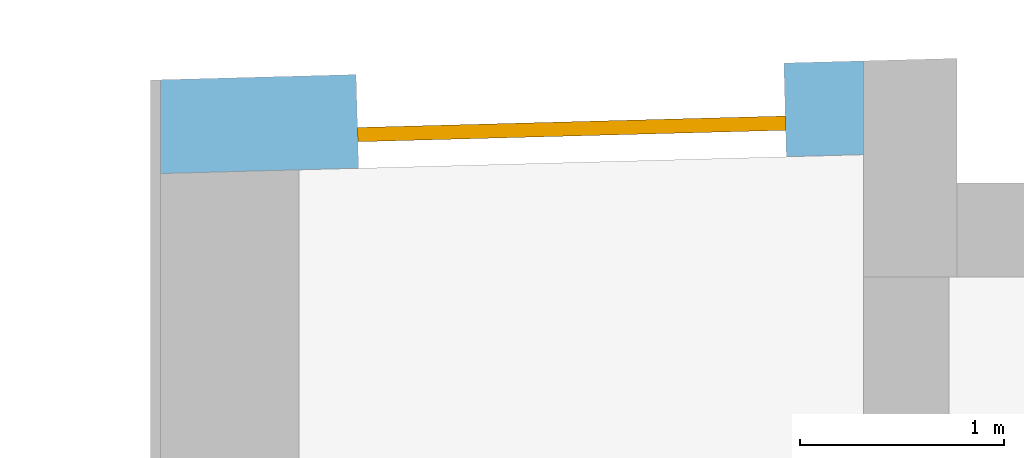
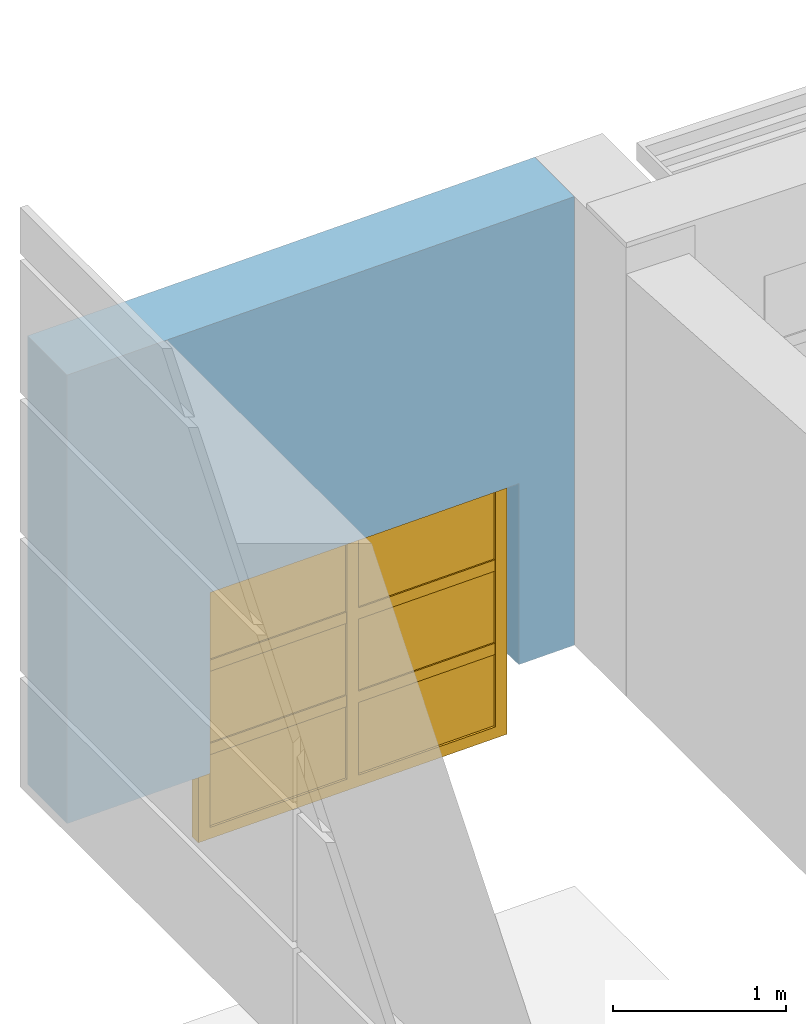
# One storey, part 43 of 46: 1 window, 1 opening, plus 1 element that does not belong to this part.
"""IFC2X3 building model written with IfcOpenShell, lengths in millimetres."""

from ifc_helpers import new_model, entity, si_unit, converted_unit, derived_unit, direction, frame, frame_2d, origin, place, context, subcontext, project, spatial, polyline, rectangle, outline, extrude, face_set, surface_model, source, transform, mapped, material, material_list, layer, layer_set, layer_usage, type_object, type_shapes, element, fill, save


model = new_model("IFC2X3")

# Units and contexts
model_context = context("Model", 3, precision=0.01, world=origin(), true_north=direction((6.12303176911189e-17, 1.0)))
body_context = subcontext(model_context, "Body", "Model", "MODEL_VIEW")
ifc_project = project(units=[si_unit("LENGTHUNIT", "METRE", prefix="MILLI"), si_unit("AREAUNIT", "SQUARE_METRE"), si_unit("VOLUMEUNIT", "CUBIC_METRE"), converted_unit("PLANEANGLEUNIT", "DEGREE", entity("IfcRatioMeasure", 0.0174532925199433), si_unit("PLANEANGLEUNIT", "RADIAN"), dimensions=[0, 0, 0, 0, 0, 0, 0]), si_unit("MASSUNIT", "GRAM", prefix="KILO"), derived_unit("MASSDENSITYUNIT", [(si_unit("MASSUNIT", "GRAM", prefix="KILO"), 1), (si_unit("LENGTHUNIT", "METRE"), -3)]), si_unit("TIMEUNIT", "SECOND"), si_unit("FREQUENCYUNIT", "HERTZ"), si_unit("THERMODYNAMICTEMPERATUREUNIT", "DEGREE_CELSIUS"), derived_unit("THERMALTRANSMITTANCEUNIT", [(si_unit("MASSUNIT", "GRAM", prefix="KILO"), 1), (si_unit("THERMODYNAMICTEMPERATUREUNIT", "KELVIN"), -1), (si_unit("TIMEUNIT", "SECOND"), -3)]), derived_unit("VOLUMETRICFLOWRATEUNIT", [(si_unit("LENGTHUNIT", "METRE"), 3), (si_unit("TIMEUNIT", "SECOND"), -1)]), si_unit("ELECTRICCURRENTUNIT", "AMPERE"), si_unit("ELECTRICVOLTAGEUNIT", "VOLT"), si_unit("POWERUNIT", "WATT"), si_unit("FORCEUNIT", "NEWTON", prefix="KILO"), si_unit("ILLUMINANCEUNIT", "LUX"), si_unit("LUMINOUSFLUXUNIT", "LUMEN"), si_unit("LUMINOUSINTENSITYUNIT", "CANDELA"), derived_unit("USERDEFINED", [(si_unit("MASSUNIT", "GRAM", prefix="KILO"), -1), (si_unit("LENGTHUNIT", "METRE"), -2), (si_unit("TIMEUNIT", "SECOND"), 3), (si_unit("LUMINOUSFLUXUNIT", "LUMEN"), 1)]), derived_unit("LINEARVELOCITYUNIT", [(si_unit("LENGTHUNIT", "METRE"), 1), (si_unit("TIMEUNIT", "SECOND"), -1)]), si_unit("PRESSUREUNIT", "PASCAL"), derived_unit("USERDEFINED", [(si_unit("LENGTHUNIT", "METRE"), -2), (si_unit("MASSUNIT", "GRAM", prefix="KILO"), 1), (si_unit("TIMEUNIT", "SECOND"), -2)])], contexts=[model_context])

# Site, building, storey
site_placement = place(None, frame((-151.875543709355, 2715.0, 0.0)))
site = spatial("IfcSite", under=ifc_project, at=site_placement, Name="Surface", CompositionType="ELEMENT")
building_placement = place(site_placement, origin())
building = spatial("IfcBuilding", under=site, at=building_placement, CompositionType="ELEMENT")
storey_placement = place(building_placement, frame((0.0, 0.0, 10060.0)))
storey = spatial("IfcBuildingStorey", under=building, at=storey_placement, Name="4 korrus", CompositionType="ELEMENT", Elevation=10060.0000000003)

# Wall, opening, window
ifc_material_1 = material(Name="Brick, Common")
ifc_layer_1 = layer(ifc_material_1, 440.0)
ifc_material_2 = material(Name="__Kips GN13_tava")
ifc_layer_2 = layer(ifc_material_2, 20.0)
ifc_layer_set = layer_set([ifc_layer_1, ifc_layer_2], Name="Basic Wall:VS-1")
ifc_layer_usage = layer_usage(ifc_layer_set, "AXIS2", "NEGATIVE", 230.0)
wall_type = type_object("IfcWallType", Name="Basic Wall:VS-1", PredefinedType="STANDARD", material=ifc_layer_set)
wall_placement = place(storey_placement, frame((1084.82025900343, 12886.4674488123, 0.0), z_axis=(0.0, 0.0, 1.0), x_axis=(0.999638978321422, 0.0268684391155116, 0.0)))
wall = element("IfcWallStandardCase", 1, at=wall_placement, inside=storey, type_object=wall_type, material=ifc_layer_usage, Name="SEIN - 004", ObjectType="Basic Wall:VS-1", context=body_context, shape_type="SweptSolid", body=[
    extrude(outline(polyline([(0.0, -230.0), (679.245222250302, -230.0), (3450.32003918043, -230.0), (3462.68398482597, 230.0), (12.363945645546, 230.0), (0.0, -230.0)])), origin(), (0.0, 0.0, 1.0), 3173.94120006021),
])
opening_placement = place(wall_placement, frame((-1430.66788143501, -12852.6677276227, 0.0), z_axis=(0.0, 0.0, 1.0), x_axis=(0.999638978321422, -0.0268684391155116, 0.0)))
opening = element("IfcOpeningElement", 2, at=opening_placement, cuts=wall, Name="SEIN - 004", ObjectType="Opening", context=body_context, shape_type="SweptSolid", body=[
    extrude(rectangle(XDim=1850.0, YDim=2100.0, at=frame_2d((0.0, 1.13686837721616e-13), x_axis=(1.0, 0.0))), frame((3124.83901111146, 12245.1480382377, 356.01247787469), z_axis=(-0.0268684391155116, 0.999638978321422, 0.0), x_axis=(0.0, 0.0, -1.0)), (0.0, 0.0, 1.0), 1393.8),
])
ifc_material_3 = material(Name="Paint - Titanium White")
ifc_material_4 = material(Name="Paint - Dark Gray")
ifc_material_5 = material(Name="Glass - Clear Fast")
ifc_material_list_1 = material_list([ifc_material_3, ifc_material_4, ifc_material_5])
ifc_material_list_2 = material_list([ifc_material_3, ifc_material_4, ifc_material_5])
window_style = type_object("IfcWindowStyle", Name="A-02", ConstructionType="NOTDEFINED", OperationType="DOUBLE_PANEL_VERTICAL", ParameterTakesPrecedence=False, Sizeable=False, material=ifc_material_list_2)
shared_shape = source(origin(), body_context, "Body", "SurfaceModel", [
    surface_model("IfcFaceBasedSurfaceModel", [(80.0, 727.9, 1770.0), (80.0, 772.9, 1770.0), (0.0, 772.9, 1770.0), (0.0, 727.9, 1770.0), (80.0, 727.9, 80.0), (80.0, 772.9, 80.0), (80.0, 772.9, 1770.0), (80.0, 727.9, 1770.0), (80.0, 772.9, 1770.0), (80.0, 772.9, 80.0), (0.0, 772.9, 80.0), (0.0, 772.9, 1770.0), (0.0, 727.9, 1770.0), (0.0, 772.9, 1770.0), (0.0, 772.9, 80.0), (0.0, 727.9, 80.0), (80.0, 727.9, 1770.0), (0.0, 727.9, 1770.0), (0.0, 727.9, 80.0), (80.0, 727.9, 80.0), (0.0, 727.9, 80.0), (0.0, 772.9, 80.0), (80.0, 772.9, 80.0), (80.0, 727.9, 80.0), (2020.0, 727.9, 80.0), (2020.0, 772.9, 80.0), (2100.0, 772.9, 80.0), (2100.0, 727.9, 80.0), (2020.0, 727.9, 1770.0), (2020.0, 772.9, 1770.0), (2020.0, 772.9, 80.0), (2020.0, 727.9, 80.0), (2020.0, 772.9, 80.0), (2020.0, 772.9, 1770.0), (2100.0, 772.9, 1770.0), (2100.0, 772.9, 80.0), (2100.0, 727.9, 80.0), (2100.0, 772.9, 80.0), (2100.0, 772.9, 1770.0), (2100.0, 727.9, 1770.0), (2020.0, 727.9, 80.0), (2100.0, 727.9, 80.0), (2100.0, 727.9, 1770.0), (2020.0, 727.9, 1770.0), (2100.0, 727.9, 1770.0), (2100.0, 772.9, 1770.0), (2020.0, 772.9, 1770.0), (2020.0, 727.9, 1770.0), (1010.0, 727.9, 80.0), (1010.0, 772.9, 80.0), (1090.0, 772.9, 80.0), (1090.0, 727.9, 80.0), (1010.0, 727.9, 1770.0), (1010.0, 772.9, 1770.0), (1010.0, 772.9, 80.0), (1010.0, 727.9, 80.0), (1010.0, 772.9, 80.0), (1010.0, 772.9, 1770.0), (1090.0, 772.9, 1770.0), (1090.0, 772.9, 80.0), (1090.0, 727.9, 80.0), (1090.0, 772.9, 80.0), (1090.0, 772.9, 1770.0), (1090.0, 727.9, 1770.0), (1010.0, 727.9, 80.0), (1090.0, 727.9, 80.0), (1090.0, 727.9, 1770.0), (1010.0, 727.9, 1770.0), (1090.0, 727.9, 1770.0), (1090.0, 772.9, 1770.0), (1010.0, 772.9, 1770.0), (1010.0, 727.9, 1770.0), (80.0, 727.9, 80.0), (80.0, 772.9, 80.0), (0.0, 772.9, 80.0), (0.0, 727.9, 80.0), (1010.0, 727.9, 80.0), (1010.0, 772.9, 80.0), (80.0, 772.9, 80.0), (80.0, 727.9, 80.0), (80.0, 772.9, 80.0), (1010.0, 772.9, 80.0), (1090.0, 772.9, 80.0), (2020.0, 772.9, 80.0), (2100.0, 772.9, 80.0), (2100.0, 772.9, 0.0), (0.0, 772.9, 0.0), (0.0, 772.9, 80.0), (0.0, 727.9, 80.0), (0.0, 772.9, 80.0), (0.0, 772.9, 0.0), (0.0, 727.9, 0.0), (80.0, 727.9, 80.0), (0.0, 727.9, 80.0), (0.0, 727.9, 0.0), (2100.0, 727.9, 0.0), (2100.0, 727.9, 80.0), (2020.0, 727.9, 80.0), (1090.0, 727.9, 80.0), (1010.0, 727.9, 80.0), (1090.0, 727.9, 80.0), (1090.0, 772.9, 80.0), (1010.0, 772.9, 80.0), (1010.0, 727.9, 80.0), (2020.0, 727.9, 80.0), (2020.0, 772.9, 80.0), (1090.0, 772.9, 80.0), (1090.0, 727.9, 80.0), (2100.0, 727.9, 80.0), (2100.0, 772.9, 80.0), (2020.0, 772.9, 80.0), (2020.0, 727.9, 80.0), (2100.0, 727.9, 0.0), (2100.0, 772.9, 0.0), (2100.0, 772.9, 80.0), (2100.0, 727.9, 80.0), (0.0, 727.9, 0.0), (0.0, 772.9, 0.0), (2100.0, 772.9, 0.0), (2100.0, 727.9, 0.0), (1010.0, 727.9, 1770.0), (1010.0, 772.9, 1770.0), (1090.0, 772.9, 1770.0), (1090.0, 727.9, 1770.0), (80.0, 727.9, 1770.0), (80.0, 772.9, 1770.0), (1010.0, 772.9, 1770.0), (1010.0, 727.9, 1770.0), (1010.0, 772.9, 1770.0), (80.0, 772.9, 1770.0), (0.0, 772.9, 1770.0), (0.0, 772.9, 1850.0), (2100.0, 772.9, 1850.0), (2100.0, 772.9, 1770.0), (2020.0, 772.9, 1770.0), (1090.0, 772.9, 1770.0), (1090.0, 727.9, 1770.0), (1090.0, 772.9, 1770.0), (2020.0, 772.9, 1770.0), (2020.0, 727.9, 1770.0), (1010.0, 727.9, 1770.0), (1090.0, 727.9, 1770.0), (2020.0, 727.9, 1770.0), (2100.0, 727.9, 1770.0), (2100.0, 727.9, 1850.0), (0.0, 727.9, 1850.0), (0.0, 727.9, 1770.0), (80.0, 727.9, 1770.0), (0.0, 727.9, 1770.0), (0.0, 772.9, 1770.0), (80.0, 772.9, 1770.0), (80.0, 727.9, 1770.0), (0.0, 727.9, 1850.0), (0.0, 772.9, 1850.0), (0.0, 772.9, 1770.0), (0.0, 727.9, 1770.0), (2100.0, 727.9, 1850.0), (2100.0, 772.9, 1850.0), (0.0, 772.9, 1850.0), (0.0, 727.9, 1850.0), (2100.0, 727.9, 1770.0), (2100.0, 772.9, 1770.0), (2100.0, 772.9, 1850.0), (2100.0, 727.9, 1850.0), (2020.0, 727.9, 1770.0), (2020.0, 772.9, 1770.0), (2100.0, 772.9, 1770.0), (2100.0, 727.9, 1770.0), (80.0, 752.9, 590.0), (80.0, 762.9, 590.0), (1010.0, 762.9, 590.0), (1010.0, 752.9, 590.0), (80.0, 752.9, 670.0), (80.0, 762.9, 670.0), (80.0, 762.9, 590.0), (80.0, 752.9, 590.0), (80.0, 762.9, 590.0), (80.0, 762.9, 670.0), (1010.0, 762.9, 670.0), (1010.0, 762.9, 590.0), (1010.0, 752.9, 590.0), (1010.0, 762.9, 590.0), (1010.0, 762.9, 670.0), (1010.0, 752.9, 670.0), (80.0, 752.9, 590.0), (1010.0, 752.9, 590.0), (1010.0, 752.9, 670.0), (80.0, 752.9, 670.0), (1010.0, 752.9, 670.0), (1010.0, 762.9, 670.0), (80.0, 762.9, 670.0), (80.0, 752.9, 670.0), (80.0, 752.9, 1180.0), (80.0, 762.9, 1180.0), (1010.0, 762.9, 1180.0), (1010.0, 752.9, 1180.0), (80.0, 752.9, 1260.0), (80.0, 762.9, 1260.0), (80.0, 762.9, 1180.0), (80.0, 752.9, 1180.0), (80.0, 762.9, 1180.0), (80.0, 762.9, 1260.0), (1010.0, 762.9, 1260.0), (1010.0, 762.9, 1180.0), (1010.0, 752.9, 1180.0), (1010.0, 762.9, 1180.0), (1010.0, 762.9, 1260.0), (1010.0, 752.9, 1260.0), (80.0, 752.9, 1180.0), (1010.0, 752.9, 1180.0), (1010.0, 752.9, 1260.0), (80.0, 752.9, 1260.0), (1010.0, 752.9, 1260.0), (1010.0, 762.9, 1260.0), (80.0, 762.9, 1260.0), (80.0, 752.9, 1260.0), (1090.0, 752.9, 590.0), (1090.0, 762.9, 590.0), (2020.0, 762.9, 590.0), (2020.0, 752.9, 590.0), (1090.0, 752.9, 670.0), (1090.0, 762.9, 670.0), (1090.0, 762.9, 590.0), (1090.0, 752.9, 590.0), (1090.0, 762.9, 590.0), (1090.0, 762.9, 670.0), (2020.0, 762.9, 670.0), (2020.0, 762.9, 590.0), (2020.0, 752.9, 590.0), (2020.0, 762.9, 590.0), (2020.0, 762.9, 670.0), (2020.0, 752.9, 670.0), (1090.0, 752.9, 590.0), (2020.0, 752.9, 590.0), (2020.0, 752.9, 670.0), (1090.0, 752.9, 670.0), (2020.0, 752.9, 670.0), (2020.0, 762.9, 670.0), (1090.0, 762.9, 670.0), (1090.0, 752.9, 670.0), (1090.0, 752.9, 1180.0), (1090.0, 762.9, 1180.0), (2020.0, 762.9, 1180.0), (2020.0, 752.9, 1180.0), (1090.0, 752.9, 1260.0), (1090.0, 762.9, 1260.0), (1090.0, 762.9, 1180.0), (1090.0, 752.9, 1180.0), (1090.0, 762.9, 1180.0), (1090.0, 762.9, 1260.0), (2020.0, 762.9, 1260.0), (2020.0, 762.9, 1180.0), (2020.0, 752.9, 1180.0), (2020.0, 762.9, 1180.0), (2020.0, 762.9, 1260.0), (2020.0, 752.9, 1260.0), (1090.0, 752.9, 1180.0), (2020.0, 752.9, 1180.0), (2020.0, 752.9, 1260.0), (1090.0, 752.9, 1260.0), (2020.0, 752.9, 1260.0), (2020.0, 762.9, 1260.0), (1090.0, 762.9, 1260.0), (1090.0, 752.9, 1260.0)], [face_set([[[0, 1, 2, 3]]]), face_set([[[4, 5, 6, 7]]]), face_set([[[8, 9, 10, 11]]]), face_set([[[12, 13, 14, 15]]]), face_set([[[16, 17, 18, 19]]]), face_set([[[20, 21, 22, 23]]]), face_set([[[24, 25, 26, 27]]]), face_set([[[28, 29, 30, 31]]]), face_set([[[32, 33, 34, 35]]]), face_set([[[36, 37, 38, 39]]]), face_set([[[40, 41, 42, 43]]]), face_set([[[44, 45, 46, 47]]]), face_set([[[48, 49, 50, 51]]]), face_set([[[52, 53, 54, 55]]]), face_set([[[56, 57, 58, 59]]]), face_set([[[60, 61, 62, 63]]]), face_set([[[64, 65, 66, 67]]]), face_set([[[68, 69, 70, 71]]]), face_set([[[72, 73, 74, 75]]]), face_set([[[76, 77, 78, 79]]]), face_set([[[80, 81, 82, 83, 84, 85, 86, 87]]]), face_set([[[88, 89, 90, 91]]]), face_set([[[92, 93, 94, 95, 96, 97, 98, 99]]]), face_set([[[100, 101, 102, 103]]]), face_set([[[104, 105, 106, 107]]]), face_set([[[108, 109, 110, 111]]]), face_set([[[112, 113, 114, 115]]]), face_set([[[116, 117, 118, 119]]]), face_set([[[120, 121, 122, 123]]]), face_set([[[124, 125, 126, 127]]]), face_set([[[128, 129, 130, 131, 132, 133, 134, 135]]]), face_set([[[136, 137, 138, 139]]]), face_set([[[140, 141, 142, 143, 144, 145, 146, 147]]]), face_set([[[148, 149, 150, 151]]]), face_set([[[152, 153, 154, 155]]]), face_set([[[156, 157, 158, 159]]]), face_set([[[160, 161, 162, 163]]]), face_set([[[164, 165, 166, 167]]]), face_set([[[168, 169, 170, 171]]]), face_set([[[172, 173, 174, 175]]]), face_set([[[176, 177, 178, 179]]]), face_set([[[180, 181, 182, 183]]]), face_set([[[184, 185, 186, 187]]]), face_set([[[188, 189, 190, 191]]]), face_set([[[192, 193, 194, 195]]]), face_set([[[196, 197, 198, 199]]]), face_set([[[200, 201, 202, 203]]]), face_set([[[204, 205, 206, 207]]]), face_set([[[208, 209, 210, 211]]]), face_set([[[212, 213, 214, 215]]]), face_set([[[216, 217, 218, 219]]]), face_set([[[220, 221, 222, 223]]]), face_set([[[224, 225, 226, 227]]]), face_set([[[228, 229, 230, 231]]]), face_set([[[232, 233, 234, 235]]]), face_set([[[236, 237, 238, 239]]]), face_set([[[240, 241, 242, 243]]]), face_set([[[244, 245, 246, 247]]]), face_set([[[248, 249, 250, 251]]]), face_set([[[252, 253, 254, 255]]]), face_set([[[256, 257, 258, 259]]]), face_set([[[260, 261, 262, 263]]])]),
    surface_model("IfcFaceBasedSurfaceModel", [(80.0, 772.9, 1770.0), (80.0, 797.9, 1770.0), (0.0, 797.9, 1770.0), (0.0, 772.9, 1770.0), (80.0, 772.9, 80.0), (80.0, 797.9, 80.0), (80.0, 797.9, 1770.0), (80.0, 772.9, 1770.0), (80.0, 797.9, 1770.0), (80.0, 797.9, 80.0), (0.0, 797.9, 80.0), (0.0, 797.9, 1770.0), (0.0, 772.9, 1770.0), (0.0, 797.9, 1770.0), (0.0, 797.9, 80.0), (0.0, 772.9, 80.0), (80.0, 772.9, 1770.0), (0.0, 772.9, 1770.0), (0.0, 772.9, 80.0), (80.0, 772.9, 80.0), (0.0, 772.9, 80.0), (0.0, 797.9, 80.0), (80.0, 797.9, 80.0), (80.0, 772.9, 80.0), (2020.0, 772.9, 80.0), (2020.0, 797.9, 80.0), (2100.0, 797.9, 80.0), (2100.0, 772.9, 80.0), (2020.0, 772.9, 1770.0), (2020.0, 797.9, 1770.0), (2020.0, 797.9, 80.0), (2020.0, 772.9, 80.0), (2020.0, 797.9, 80.0), (2020.0, 797.9, 1770.0), (2100.0, 797.9, 1770.0), (2100.0, 797.9, 80.0), (2100.0, 772.9, 80.0), (2100.0, 797.9, 80.0), (2100.0, 797.9, 1770.0), (2100.0, 772.9, 1770.0), (2020.0, 772.9, 80.0), (2100.0, 772.9, 80.0), (2100.0, 772.9, 1770.0), (2020.0, 772.9, 1770.0), (2100.0, 772.9, 1770.0), (2100.0, 797.9, 1770.0), (2020.0, 797.9, 1770.0), (2020.0, 772.9, 1770.0), (1010.0, 772.9, 80.0), (1010.0, 797.9, 80.0), (1090.0, 797.9, 80.0), (1090.0, 772.9, 80.0), (1010.0, 772.9, 1770.0), (1010.0, 797.9, 1770.0), (1010.0, 797.9, 80.0), (1010.0, 772.9, 80.0), (1010.0, 797.9, 80.0), (1010.0, 797.9, 1770.0), (1090.0, 797.9, 1770.0), (1090.0, 797.9, 80.0), (1090.0, 772.9, 80.0), (1090.0, 797.9, 80.0), (1090.0, 797.9, 1770.0), (1090.0, 772.9, 1770.0), (1010.0, 772.9, 80.0), (1090.0, 772.9, 80.0), (1090.0, 772.9, 1770.0), (1010.0, 772.9, 1770.0), (1090.0, 772.9, 1770.0), (1090.0, 797.9, 1770.0), (1010.0, 797.9, 1770.0), (1010.0, 772.9, 1770.0), (80.0, 772.9, 80.0), (80.0, 797.9, 80.0), (0.0, 797.9, 80.0), (0.0, 772.9, 80.0), (1010.0, 772.9, 80.0), (1010.0, 797.9, 80.0), (80.0, 797.9, 80.0), (80.0, 772.9, 80.0), (80.0, 797.9, 80.0), (1010.0, 797.9, 80.0), (1090.0, 797.9, 80.0), (2020.0, 797.9, 80.0), (2100.0, 797.9, 80.0), (2100.0, 797.9, 0.0), (0.0, 797.9, 0.0), (0.0, 797.9, 80.0), (0.0, 772.9, 80.0), (0.0, 797.9, 80.0), (0.0, 797.9, 0.0), (0.0, 772.9, 0.0), (80.0, 772.9, 80.0), (0.0, 772.9, 80.0), (0.0, 772.9, 0.0), (2100.0, 772.9, 0.0), (2100.0, 772.9, 80.0), (2020.0, 772.9, 80.0), (1090.0, 772.9, 80.0), (1010.0, 772.9, 80.0), (1090.0, 772.9, 80.0), (1090.0, 797.9, 80.0), (1010.0, 797.9, 80.0), (1010.0, 772.9, 80.0), (2020.0, 772.9, 80.0), (2020.0, 797.9, 80.0), (1090.0, 797.9, 80.0), (1090.0, 772.9, 80.0), (2100.0, 772.9, 80.0), (2100.0, 797.9, 80.0), (2020.0, 797.9, 80.0), (2020.0, 772.9, 80.0), (2100.0, 772.9, 0.0), (2100.0, 797.9, 0.0), (2100.0, 797.9, 80.0), (2100.0, 772.9, 80.0), (0.0, 772.9, 0.0), (0.0, 797.9, 0.0), (2100.0, 797.9, 0.0), (2100.0, 772.9, 0.0), (1010.0, 772.9, 1770.0), (1010.0, 797.9, 1770.0), (1090.0, 797.9, 1770.0), (1090.0, 772.9, 1770.0), (80.0, 772.9, 1770.0), (80.0, 797.9, 1770.0), (1010.0, 797.9, 1770.0), (1010.0, 772.9, 1770.0), (1010.0, 797.9, 1770.0), (80.0, 797.9, 1770.0), (0.0, 797.9, 1770.0), (0.0, 797.9, 1850.0), (2100.0, 797.9, 1850.0), (2100.0, 797.9, 1770.0), (2020.0, 797.9, 1770.0), (1090.0, 797.9, 1770.0), (1090.0, 772.9, 1770.0), (1090.0, 797.9, 1770.0), (2020.0, 797.9, 1770.0), (2020.0, 772.9, 1770.0), (1010.0, 772.9, 1770.0), (1090.0, 772.9, 1770.0), (2020.0, 772.9, 1770.0), (2100.0, 772.9, 1770.0), (2100.0, 772.9, 1850.0), (0.0, 772.9, 1850.0), (0.0, 772.9, 1770.0), (80.0, 772.9, 1770.0), (0.0, 772.9, 1770.0), (0.0, 797.9, 1770.0), (80.0, 797.9, 1770.0), (80.0, 772.9, 1770.0), (0.0, 772.9, 1850.0), (0.0, 797.9, 1850.0), (0.0, 797.9, 1770.0), (0.0, 772.9, 1770.0), (2100.0, 772.9, 1850.0), (2100.0, 797.9, 1850.0), (0.0, 797.9, 1850.0), (0.0, 772.9, 1850.0), (2100.0, 772.9, 1770.0), (2100.0, 797.9, 1770.0), (2100.0, 797.9, 1850.0), (2100.0, 772.9, 1850.0), (2020.0, 772.9, 1770.0), (2020.0, 797.9, 1770.0), (2100.0, 797.9, 1770.0), (2100.0, 772.9, 1770.0), (80.0, 762.9, 590.0), (80.0, 792.9, 590.0), (1010.0, 792.9, 590.0), (1010.0, 762.9, 590.0), (80.0, 762.9, 670.0), (80.0, 792.9, 670.0), (80.0, 792.9, 590.0), (80.0, 762.9, 590.0), (80.0, 792.9, 590.0), (80.0, 792.9, 670.0), (1010.0, 792.9, 670.0), (1010.0, 792.9, 590.0), (1010.0, 762.9, 590.0), (1010.0, 792.9, 590.0), (1010.0, 792.9, 670.0), (1010.0, 762.9, 670.0), (80.0, 762.9, 590.0), (1010.0, 762.9, 590.0), (1010.0, 762.9, 670.0), (80.0, 762.9, 670.0), (1010.0, 762.9, 670.0), (1010.0, 792.9, 670.0), (80.0, 792.9, 670.0), (80.0, 762.9, 670.0), (80.0, 762.9, 1180.0), (80.0, 792.9, 1180.0), (1010.0, 792.9, 1180.0), (1010.0, 762.9, 1180.0), (80.0, 762.9, 1260.0), (80.0, 792.9, 1260.0), (80.0, 792.9, 1180.0), (80.0, 762.9, 1180.0), (80.0, 792.9, 1180.0), (80.0, 792.9, 1260.0), (1010.0, 792.9, 1260.0), (1010.0, 792.9, 1180.0), (1010.0, 762.9, 1180.0), (1010.0, 792.9, 1180.0), (1010.0, 792.9, 1260.0), (1010.0, 762.9, 1260.0), (80.0, 762.9, 1180.0), (1010.0, 762.9, 1180.0), (1010.0, 762.9, 1260.0), (80.0, 762.9, 1260.0), (1010.0, 762.9, 1260.0), (1010.0, 792.9, 1260.0), (80.0, 792.9, 1260.0), (80.0, 762.9, 1260.0), (1090.0, 762.9, 590.0), (1090.0, 792.9, 590.0), (2020.0, 792.9, 590.0), (2020.0, 762.9, 590.0), (1090.0, 762.9, 670.0), (1090.0, 792.9, 670.0), (1090.0, 792.9, 590.0), (1090.0, 762.9, 590.0), (1090.0, 792.9, 590.0), (1090.0, 792.9, 670.0), (2020.0, 792.9, 670.0), (2020.0, 792.9, 590.0), (2020.0, 762.9, 590.0), (2020.0, 792.9, 590.0), (2020.0, 792.9, 670.0), (2020.0, 762.9, 670.0), (1090.0, 762.9, 590.0), (2020.0, 762.9, 590.0), (2020.0, 762.9, 670.0), (1090.0, 762.9, 670.0), (2020.0, 762.9, 670.0), (2020.0, 792.9, 670.0), (1090.0, 792.9, 670.0), (1090.0, 762.9, 670.0), (1090.0, 762.9, 1180.0), (1090.0, 792.9, 1180.0), (2020.0, 792.9, 1180.0), (2020.0, 762.9, 1180.0), (1090.0, 762.9, 1260.0), (1090.0, 792.9, 1260.0), (1090.0, 792.9, 1180.0), (1090.0, 762.9, 1180.0), (1090.0, 792.9, 1180.0), (1090.0, 792.9, 1260.0), (2020.0, 792.9, 1260.0), (2020.0, 792.9, 1180.0), (2020.0, 762.9, 1180.0), (2020.0, 792.9, 1180.0), (2020.0, 792.9, 1260.0), (2020.0, 762.9, 1260.0), (1090.0, 762.9, 1180.0), (2020.0, 762.9, 1180.0), (2020.0, 762.9, 1260.0), (1090.0, 762.9, 1260.0), (2020.0, 762.9, 1260.0), (2020.0, 792.9, 1260.0), (1090.0, 792.9, 1260.0), (1090.0, 762.9, 1260.0)], [face_set([[[0, 1, 2, 3]]]), face_set([[[4, 5, 6, 7]]]), face_set([[[8, 9, 10, 11]]]), face_set([[[12, 13, 14, 15]]]), face_set([[[16, 17, 18, 19]]]), face_set([[[20, 21, 22, 23]]]), face_set([[[24, 25, 26, 27]]]), face_set([[[28, 29, 30, 31]]]), face_set([[[32, 33, 34, 35]]]), face_set([[[36, 37, 38, 39]]]), face_set([[[40, 41, 42, 43]]]), face_set([[[44, 45, 46, 47]]]), face_set([[[48, 49, 50, 51]]]), face_set([[[52, 53, 54, 55]]]), face_set([[[56, 57, 58, 59]]]), face_set([[[60, 61, 62, 63]]]), face_set([[[64, 65, 66, 67]]]), face_set([[[68, 69, 70, 71]]]), face_set([[[72, 73, 74, 75]]]), face_set([[[76, 77, 78, 79]]]), face_set([[[80, 81, 82, 83, 84, 85, 86, 87]]]), face_set([[[88, 89, 90, 91]]]), face_set([[[92, 93, 94, 95, 96, 97, 98, 99]]]), face_set([[[100, 101, 102, 103]]]), face_set([[[104, 105, 106, 107]]]), face_set([[[108, 109, 110, 111]]]), face_set([[[112, 113, 114, 115]]]), face_set([[[116, 117, 118, 119]]]), face_set([[[120, 121, 122, 123]]]), face_set([[[124, 125, 126, 127]]]), face_set([[[128, 129, 130, 131, 132, 133, 134, 135]]]), face_set([[[136, 137, 138, 139]]]), face_set([[[140, 141, 142, 143, 144, 145, 146, 147]]]), face_set([[[148, 149, 150, 151]]]), face_set([[[152, 153, 154, 155]]]), face_set([[[156, 157, 158, 159]]]), face_set([[[160, 161, 162, 163]]]), face_set([[[164, 165, 166, 167]]]), face_set([[[168, 169, 170, 171]]]), face_set([[[172, 173, 174, 175]]]), face_set([[[176, 177, 178, 179]]]), face_set([[[180, 181, 182, 183]]]), face_set([[[184, 185, 186, 187]]]), face_set([[[188, 189, 190, 191]]]), face_set([[[192, 193, 194, 195]]]), face_set([[[196, 197, 198, 199]]]), face_set([[[200, 201, 202, 203]]]), face_set([[[204, 205, 206, 207]]]), face_set([[[208, 209, 210, 211]]]), face_set([[[212, 213, 214, 215]]]), face_set([[[216, 217, 218, 219]]]), face_set([[[220, 221, 222, 223]]]), face_set([[[224, 225, 226, 227]]]), face_set([[[228, 229, 230, 231]]]), face_set([[[232, 233, 234, 235]]]), face_set([[[236, 237, 238, 239]]]), face_set([[[240, 241, 242, 243]]]), face_set([[[244, 245, 246, 247]]]), face_set([[[248, 249, 250, 251]]]), face_set([[[252, 253, 254, 255]]]), face_set([[[256, 257, 258, 259]]]), face_set([[[260, 261, 262, 263]]])]),
    surface_model("IfcFaceBasedSurfaceModel", [(1010.0, 762.9, 80.0), (1010.0, 762.9, 590.0), (80.0, 762.9, 590.0), (80.0, 762.9, 80.0), (1010.0, 782.9, 80.0), (80.0, 782.9, 80.0), (80.0, 782.9, 590.0), (1010.0, 782.9, 590.0), (1010.0, 762.9, 670.0), (1010.0, 762.9, 1180.0), (80.0, 762.9, 1180.0), (80.0, 762.9, 670.0), (1010.0, 782.9, 670.0), (80.0, 782.9, 670.0), (80.0, 782.9, 1180.0), (1010.0, 782.9, 1180.0), (1010.0, 762.9, 1260.0), (1010.0, 762.9, 1770.0), (80.0, 762.9, 1770.0), (80.0, 762.9, 1260.0), (1010.0, 782.9, 1260.0), (80.0, 782.9, 1260.0), (80.0, 782.9, 1770.0), (1010.0, 782.9, 1770.0), (2020.0, 762.9, 80.0), (2020.0, 762.9, 590.0), (1090.0, 762.9, 590.0), (1090.0, 762.9, 80.0), (2020.0, 782.9, 80.0), (1090.0, 782.9, 80.0), (1090.0, 782.9, 590.0), (2020.0, 782.9, 590.0), (2020.0, 762.9, 670.0), (2020.0, 762.9, 1180.0), (1090.0, 762.9, 1180.0), (1090.0, 762.9, 670.0), (2020.0, 782.9, 670.0), (1090.0, 782.9, 670.0), (1090.0, 782.9, 1180.0), (2020.0, 782.9, 1180.0), (2020.0, 762.9, 1260.0), (2020.0, 762.9, 1770.0), (1090.0, 762.9, 1770.0), (1090.0, 762.9, 1260.0), (2020.0, 782.9, 1260.0), (1090.0, 782.9, 1260.0), (1090.0, 782.9, 1770.0), (2020.0, 782.9, 1770.0)], [face_set([[[0, 1, 2, 3]]]), face_set([[[4, 5, 6, 7]]]), face_set([[[8, 9, 10, 11]]]), face_set([[[12, 13, 14, 15]]]), face_set([[[16, 17, 18, 19]]]), face_set([[[20, 21, 22, 23]]]), face_set([[[24, 25, 26, 27]]]), face_set([[[28, 29, 30, 31]]]), face_set([[[32, 33, 34, 35]]]), face_set([[[36, 37, 38, 39]]]), face_set([[[40, 41, 42, 43]]]), face_set([[[44, 45, 46, 47]]])]),
])
type_shapes(window_style, [shared_shape])
window_placement = place(opening_placement, frame((4137.01070790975, 13666.6567072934, -568.98752212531), z_axis=(0.0, 0.0, 1.0), x_axis=(-0.999638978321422, -0.0268684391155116, 0.0)))
window = element("IfcWindow", 3, at=window_placement, inside=storey, type_object=window_style, material=ifc_material_list_1, Name="Aken_1850x2100:A-02", ObjectType="A-02", OverallHeight=2100.0, OverallWidth=1850.0, context=body_context, shape_type="MappedRepresentation", body=[
    mapped(shared_shape, transform((0.0, 0.0, 0.0), scale=1.0)),
])
fill(opening, window)

save(model, "model.ifc")
